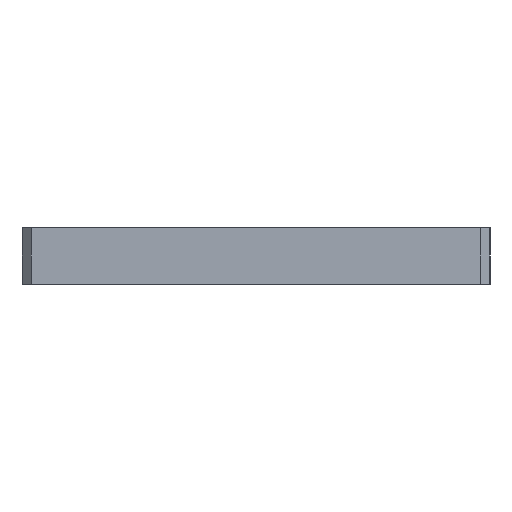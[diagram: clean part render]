
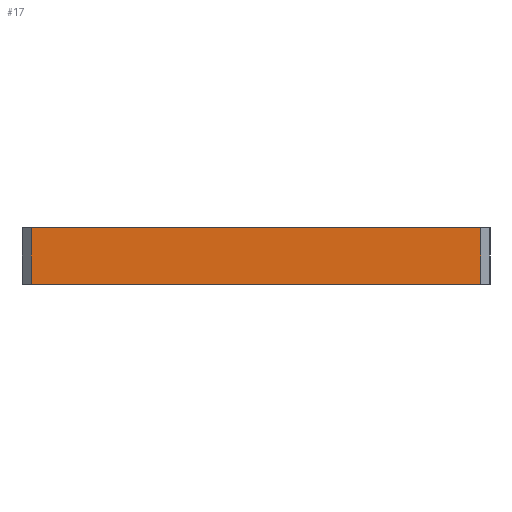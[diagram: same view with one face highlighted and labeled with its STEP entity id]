
A CAD part, left-side view. The second image highlights one B-rep face of the part: STEP entity #17.
In plain terms, the highlighted planar face has unit normal (-1, 0, 0).
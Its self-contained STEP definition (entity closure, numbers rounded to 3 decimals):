
#17 = ADVANCED_FACE('',(#18),#32,.F.);
#18 = FACE_BOUND('',#19,.F.);
#19 = EDGE_LOOP('',(#20,#55,#83,#111));
#20 = ORIENTED_EDGE('',*,*,#21,.F.);
#21 = EDGE_CURVE('',#22,#24,#26,.T.);
#22 = VERTEX_POINT('',#23);
#23 = CARTESIAN_POINT('',(-16.74,-11.9,1.5));
#24 = VERTEX_POINT('',#25);
#25 = CARTESIAN_POINT('',(-16.74,11.9,1.5));
#26 = SURFACE_CURVE('',#27,(#31,#43),.PCURVE_S1.);
#27 = LINE('',#28,#29);
#28 = CARTESIAN_POINT('',(-16.74,-12.4,1.5));
#29 = VECTOR('',#30,1.);
#30 = DIRECTION('',(0.,1.,0.));
#31 = PCURVE('',#32,#37);
#32 = PLANE('',#33);
#33 = AXIS2_PLACEMENT_3D('',#34,#35,#36);
#34 = CARTESIAN_POINT('',(-16.74,-12.4,-1.5));
#35 = DIRECTION('',(1.,0.,0.));
#36 = DIRECTION('',(0.,0.,1.));
#37 = DEFINITIONAL_REPRESENTATION('',(#38),#42);
#38 = LINE('',#39,#40);
#39 = CARTESIAN_POINT('',(3.,0.));
#40 = VECTOR('',#41,1.);
#41 = DIRECTION('',(0.,-1.));
#42 = ( GEOMETRIC_REPRESENTATION_CONTEXT(2) 
PARAMETRIC_REPRESENTATION_CONTEXT() REPRESENTATION_CONTEXT('2D SPACE',''
  ) );
#43 = PCURVE('',#44,#49);
#44 = PLANE('',#45);
#45 = AXIS2_PLACEMENT_3D('',#46,#47,#48);
#46 = CARTESIAN_POINT('',(-16.74,-12.4,1.5));
#47 = DIRECTION('',(0.,0.,1.));
#48 = DIRECTION('',(1.,0.,0.));
#49 = DEFINITIONAL_REPRESENTATION('',(#50),#54);
#50 = LINE('',#51,#52);
#51 = CARTESIAN_POINT('',(0.,0.));
#52 = VECTOR('',#53,1.);
#53 = DIRECTION('',(0.,1.));
#54 = ( GEOMETRIC_REPRESENTATION_CONTEXT(2) 
PARAMETRIC_REPRESENTATION_CONTEXT() REPRESENTATION_CONTEXT('2D SPACE',''
  ) );
#55 = ORIENTED_EDGE('',*,*,#56,.F.);
#56 = EDGE_CURVE('',#57,#22,#59,.T.);
#57 = VERTEX_POINT('',#58);
#58 = CARTESIAN_POINT('',(-16.74,-11.9,-1.5));
#59 = SURFACE_CURVE('',#60,(#64,#71),.PCURVE_S1.);
#60 = LINE('',#61,#62);
#61 = CARTESIAN_POINT('',(-16.74,-11.9,-1.5));
#62 = VECTOR('',#63,1.);
#63 = DIRECTION('',(0.,0.,1.));
#64 = PCURVE('',#32,#65);
#65 = DEFINITIONAL_REPRESENTATION('',(#66),#70);
#66 = LINE('',#67,#68);
#67 = CARTESIAN_POINT('',(0.,-0.5));
#68 = VECTOR('',#69,1.);
#69 = DIRECTION('',(1.,0.));
#70 = ( GEOMETRIC_REPRESENTATION_CONTEXT(2) 
PARAMETRIC_REPRESENTATION_CONTEXT() REPRESENTATION_CONTEXT('2D SPACE',''
  ) );
#71 = PCURVE('',#72,#77);
#72 = PLANE('',#73);
#73 = AXIS2_PLACEMENT_3D('',#74,#75,#76);
#74 = CARTESIAN_POINT('',(-16.49,-12.15,-1.5));
#75 = DIRECTION('',(-0.707,-0.707,0.));
#76 = DIRECTION('',(-0.,-0.,-1.));
#77 = DEFINITIONAL_REPRESENTATION('',(#78),#82);
#78 = LINE('',#79,#80);
#79 = CARTESIAN_POINT('',(-0.,-0.354));
#80 = VECTOR('',#81,1.);
#81 = DIRECTION('',(-1.,0.));
#82 = ( GEOMETRIC_REPRESENTATION_CONTEXT(2) 
PARAMETRIC_REPRESENTATION_CONTEXT() REPRESENTATION_CONTEXT('2D SPACE',''
  ) );
#83 = ORIENTED_EDGE('',*,*,#84,.T.);
#84 = EDGE_CURVE('',#57,#85,#87,.T.);
#85 = VERTEX_POINT('',#86);
#86 = CARTESIAN_POINT('',(-16.74,11.9,-1.5));
#87 = SURFACE_CURVE('',#88,(#92,#99),.PCURVE_S1.);
#88 = LINE('',#89,#90);
#89 = CARTESIAN_POINT('',(-16.74,-12.4,-1.5));
#90 = VECTOR('',#91,1.);
#91 = DIRECTION('',(0.,1.,0.));
#92 = PCURVE('',#32,#93);
#93 = DEFINITIONAL_REPRESENTATION('',(#94),#98);
#94 = LINE('',#95,#96);
#95 = CARTESIAN_POINT('',(0.,0.));
#96 = VECTOR('',#97,1.);
#97 = DIRECTION('',(0.,-1.));
#98 = ( GEOMETRIC_REPRESENTATION_CONTEXT(2) 
PARAMETRIC_REPRESENTATION_CONTEXT() REPRESENTATION_CONTEXT('2D SPACE',''
  ) );
#99 = PCURVE('',#100,#105);
#100 = PLANE('',#101);
#101 = AXIS2_PLACEMENT_3D('',#102,#103,#104);
#102 = CARTESIAN_POINT('',(-16.74,-12.4,-1.5));
#103 = DIRECTION('',(0.,0.,1.));
#104 = DIRECTION('',(1.,0.,0.));
#105 = DEFINITIONAL_REPRESENTATION('',(#106),#110);
#106 = LINE('',#107,#108);
#107 = CARTESIAN_POINT('',(0.,0.));
#108 = VECTOR('',#109,1.);
#109 = DIRECTION('',(0.,1.));
#110 = ( GEOMETRIC_REPRESENTATION_CONTEXT(2) 
PARAMETRIC_REPRESENTATION_CONTEXT() REPRESENTATION_CONTEXT('2D SPACE',''
  ) );
#111 = ORIENTED_EDGE('',*,*,#112,.T.);
#112 = EDGE_CURVE('',#85,#24,#113,.T.);
#113 = SURFACE_CURVE('',#114,(#118,#125),.PCURVE_S1.);
#114 = LINE('',#115,#116);
#115 = CARTESIAN_POINT('',(-16.74,11.9,-1.5));
#116 = VECTOR('',#117,1.);
#117 = DIRECTION('',(0.,0.,1.));
#118 = PCURVE('',#32,#119);
#119 = DEFINITIONAL_REPRESENTATION('',(#120),#124);
#120 = LINE('',#121,#122);
#121 = CARTESIAN_POINT('',(0.,-24.3));
#122 = VECTOR('',#123,1.);
#123 = DIRECTION('',(1.,0.));
#124 = ( GEOMETRIC_REPRESENTATION_CONTEXT(2) 
PARAMETRIC_REPRESENTATION_CONTEXT() REPRESENTATION_CONTEXT('2D SPACE',''
  ) );
#125 = PCURVE('',#126,#131);
#126 = PLANE('',#127);
#127 = AXIS2_PLACEMENT_3D('',#128,#129,#130);
#128 = CARTESIAN_POINT('',(-16.49,12.15,-1.5));
#129 = DIRECTION('',(0.707,-0.707,0.));
#130 = DIRECTION('',(-0.,-0.,-1.));
#131 = DEFINITIONAL_REPRESENTATION('',(#132),#136);
#132 = LINE('',#133,#134);
#133 = CARTESIAN_POINT('',(-0.,-0.354));
#134 = VECTOR('',#135,1.);
#135 = DIRECTION('',(-1.,0.));
#136 = ( GEOMETRIC_REPRESENTATION_CONTEXT(2) 
PARAMETRIC_REPRESENTATION_CONTEXT() REPRESENTATION_CONTEXT('2D SPACE',''
  ) );
